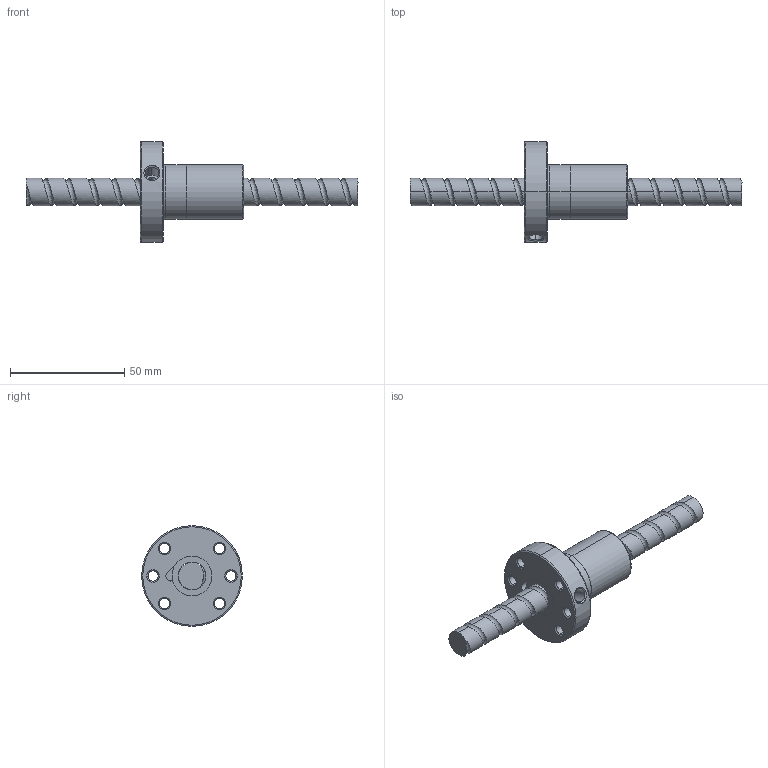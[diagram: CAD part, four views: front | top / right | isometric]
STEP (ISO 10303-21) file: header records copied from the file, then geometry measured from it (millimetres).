
FILE_DESCRIPTION (( 'STEP AP214' ), '1' );
FILE_NAME ('FSDC01210T3-A-A.STEP', '2010-06-25T11:19:59', ( 'XPAUTO' ), ( 'XPAUTO' ), 'SwSTEP 2.0', 'SolidWorks 2007', '' );
FILE_SCHEMA (( 'AUTOMOTIVE_DESIGN' ));
Length unit declared in the file: millimetre
Products named in the file (3): FSDC01210T3-A-A.sldasm-Part-2_預設; FSDC01210T3-A-A; FSDC01210T3-A-A.sldasm-Part-1_預設
Assembly tree (2 placements, depth 2):
  FSDC01210T3-A-A
    FSDC01210T3-A-A.sldasm-Part-2_預設
    FSDC01210T3-A-A.sldasm-Part-1_預設
Bounding box: 145 x 44 x 44 mm (x, y, z)
Volume: 39585.9 mm3; surface area: 15626.5 mm2
Topology: 2 solids, 2 shells, 121 faces, 301 edges, 189 vertices
Faces by surface type: cylinder 70, cone 24, plane 16, torus 6, bspline 5
Entity records: 22021 total; most frequent: CARTESIAN_POINT 19106, ORIENTED_EDGE 602, DIRECTION 579, EDGE_CURVE 301, AXIS2_PLACEMENT_3D 239, VERTEX_POINT 189, EDGE_LOOP 142, FACE_OUTER_BOUND 121
